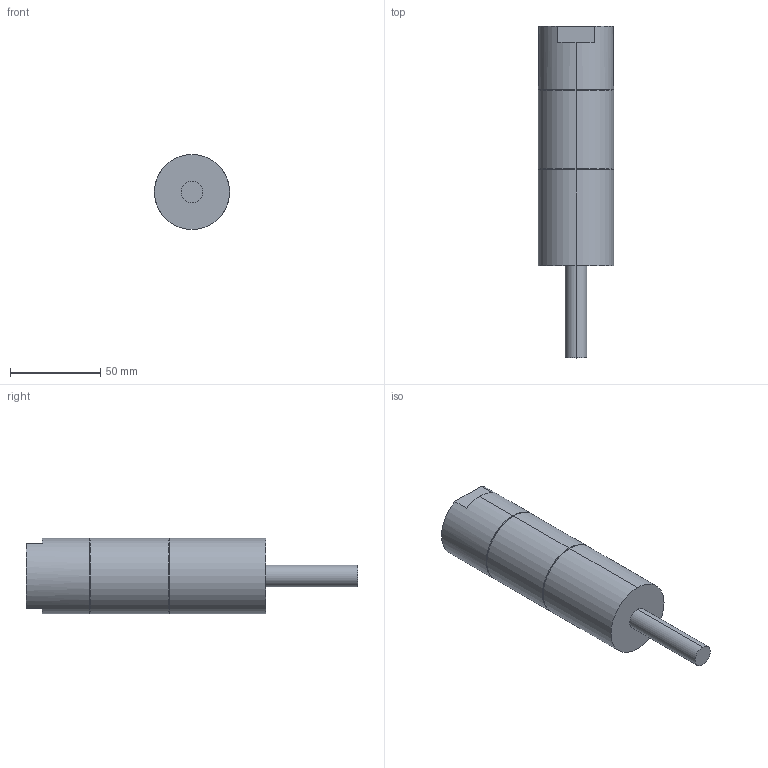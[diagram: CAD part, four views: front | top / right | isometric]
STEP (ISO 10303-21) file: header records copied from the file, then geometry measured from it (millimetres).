
FILE_DESCRIPTION (( 'STEP AP214' ), '1' );
FILE_NAME ('PLM38260.STEP', '2019-05-22T09:11:14', ( '' ), ( '' ), 'SwSTEP 2.0', 'SolidWorks 2018', '' );
FILE_SCHEMA (( 'AUTOMOTIVE_DESIGN' ));
Length unit declared in the file: millimetre
Products named in the file (1): PLM38260
Bounding box: 41.5 x 183.5 x 41.5 mm (x, y, z)
Volume: 179521 mm3; surface area: 23596.8 mm2
Topology: 1 solids, 1 shells, 32 faces, 66 edges, 44 vertices
Faces by surface type: cylinder 18, plane 14
Entity records: 904 total; most frequent: DIRECTION 172, CARTESIAN_POINT 143, ORIENTED_EDGE 132, AXIS2_PLACEMENT_3D 73, EDGE_CURVE 66, VERTEX_POINT 44, CIRCLE 40, EDGE_LOOP 40
